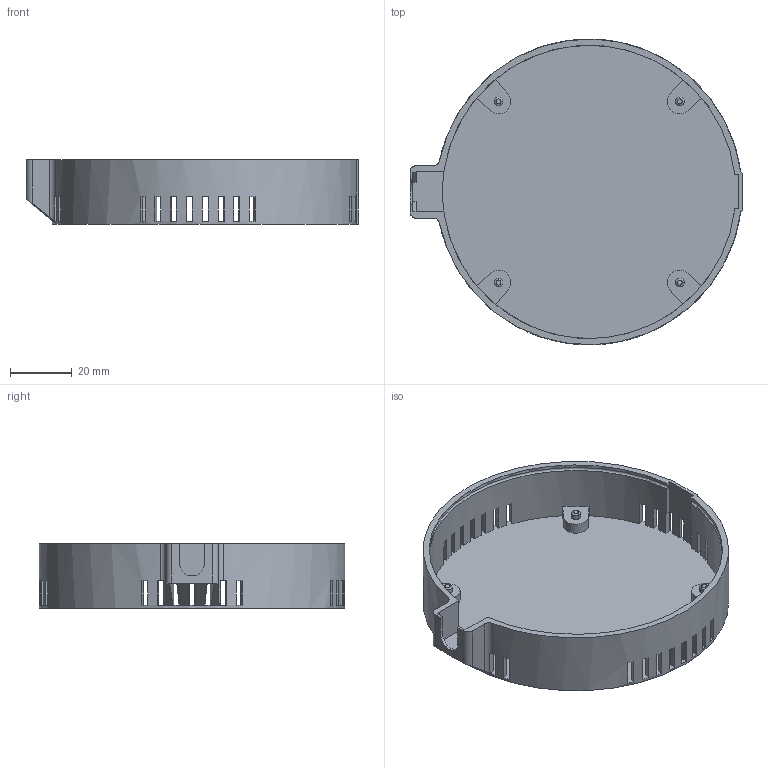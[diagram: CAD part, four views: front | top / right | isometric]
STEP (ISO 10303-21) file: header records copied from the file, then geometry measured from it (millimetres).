
FILE_DESCRIPTION((''),'2;1');
FILE_NAME('RBASE_SIDE_SWITCH','2024-11-05T18:00:37',('qinghui.yi'),(''),'CREO PARAMETRIC BY PTC INC, 2019164','CREO PARAMETRIC BY PTC INC, 2019164','');
FILE_SCHEMA(('CONFIG_CONTROL_DESIGN','SHAPE_APPEARANCE_LAYERS_GROUPS'));
Length unit declared in the file: millimetre
Products named in the file (1): RBASE_SIDE_SWITCH
Bounding box: 107.5 x 99 x 21 mm (x, y, z)
Volume: 20430.7 mm3; surface area: 29421.2 mm2
Topology: 1 solids, 1 shells, 176 faces, 636 edges, 432 vertices
Faces by surface type: plane 135, cylinder 25, torus 12, cone 4
Entity records: 7475 total; most frequent: CARTESIAN_POINT 1385, ORIENTED_EDGE 1272, DIRECTION 1196, EDGE_CURVE 636, VERTEX_POINT 432, AXIS2_PLACEMENT_3D 404, VECTOR 388, LINE 388
